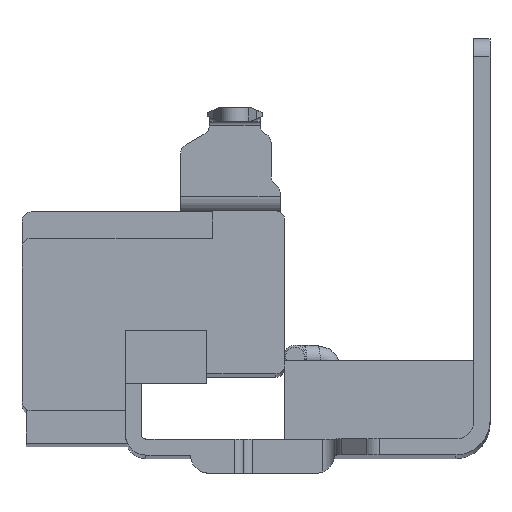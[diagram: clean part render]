
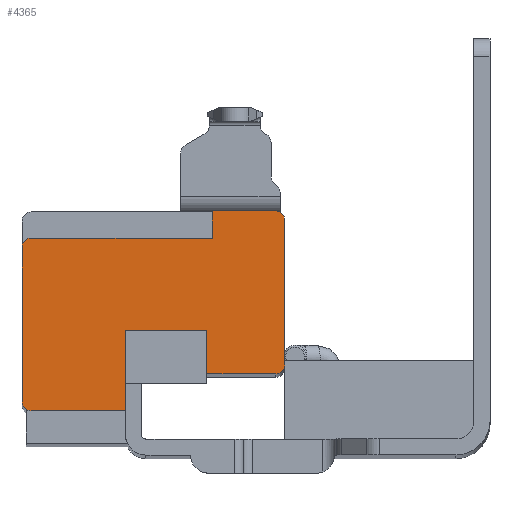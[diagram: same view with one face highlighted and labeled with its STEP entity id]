
A CAD part, top view. The second image highlights one B-rep face of the part: STEP entity #4365.
In plain terms, the highlighted planar face has unit normal (0, 0, 1).
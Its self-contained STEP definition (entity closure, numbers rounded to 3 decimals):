
#14 = EDGE_CURVE ( 'NONE', #10034, #2346, #4924, .T. ) ;
#186 = DIRECTION ( 'NONE',  ( 1., 0., 0. ) ) ;
#220 = DIRECTION ( 'NONE',  ( 0., 0., -1. ) ) ;
#350 = EDGE_CURVE ( 'NONE', #6842, #2805, #7720, .T. ) ;
#486 = LINE ( 'NONE', #9860, #2567 ) ;
#488 = ORIENTED_EDGE ( 'NONE', *, *, #7709, .F. ) ;
#647 = CARTESIAN_POINT ( 'NONE',  ( -42.85, 3., -18.7 ) ) ;
#724 = CARTESIAN_POINT ( 'NONE',  ( -71.88, -17.1, -18.7 ) ) ;
#897 = DIRECTION ( 'NONE',  ( 1., 0., 0. ) ) ;
#1115 = VECTOR ( 'NONE', #897, 1000. ) ;
#1179 = VECTOR ( 'NONE', #186, 1000. ) ;
#1335 = DIRECTION ( 'NONE',  ( 0., 0., -1. ) ) ;
#1358 = VECTOR ( 'NONE', #4287, 1000. ) ;
#1385 = VECTOR ( 'NONE', #2173, 1000. ) ;
#1423 = CARTESIAN_POINT ( 'NONE',  ( -50.85, 4., -18.7 ) ) ;
#1461 = AXIS2_PLACEMENT_3D ( 'NONE', #3054, #8645, #3874 ) ;
#1503 = CARTESIAN_POINT ( 'NONE',  ( -43.85, -14., -18.7 ) ) ;
#1688 = LINE ( 'NONE', #2409, #5893 ) ;
#1832 = CARTESIAN_POINT ( 'NONE',  ( -42.85, -13., -18.7 ) ) ;
#2051 = CARTESIAN_POINT ( 'NONE',  ( -70.88, -17.1, -18.7 ) ) ;
#2148 = ORIENTED_EDGE ( 'NONE', *, *, #9475, .F. ) ;
#2173 = DIRECTION ( 'NONE',  ( 0., -1., 0. ) ) ;
#2226 = ORIENTED_EDGE ( 'NONE', *, *, #5056, .F. ) ;
#2346 = VERTEX_POINT ( 'NONE', #6727 ) ;
#2409 = CARTESIAN_POINT ( 'NONE',  ( -60.45, 0., -18.7 ) ) ;
#2456 = LINE ( 'NONE', #5408, #6196 ) ;
#2567 = VECTOR ( 'NONE', #6620, 1000. ) ;
#2753 = EDGE_CURVE ( 'NONE', #7962, #7452, #2456, .T. ) ;
#2775 = VECTOR ( 'NONE', #3595, 1000. ) ;
#2805 = VERTEX_POINT ( 'NONE', #724 ) ;
#2812 = DIRECTION ( 'NONE',  ( -1., 0., 0. ) ) ;
#2925 = CARTESIAN_POINT ( 'NONE',  ( -40.3, 0., -18.7 ) ) ;
#2970 = EDGE_CURVE ( 'NONE', #3219, #3286, #486, .T. ) ;
#3054 = CARTESIAN_POINT ( 'NONE',  ( -43.85, -13., -18.7 ) ) ;
#3068 = CIRCLE ( 'NONE', #3589, 0.97 ) ;
#3084 = DIRECTION ( 'NONE',  ( 0., 1., 0. ) ) ;
#3163 = EDGE_CURVE ( 'NONE', #5881, #7007, #9809, .T. ) ;
#3182 = LINE ( 'NONE', #6426, #1115 ) ;
#3219 = VERTEX_POINT ( 'NONE', #647 ) ;
#3286 = VERTEX_POINT ( 'NONE', #1832 ) ;
#3336 = VERTEX_POINT ( 'NONE', #5039 ) ;
#3356 = ORIENTED_EDGE ( 'NONE', *, *, #350, .T. ) ;
#3480 = CARTESIAN_POINT ( 'NONE',  ( -51.45, -14., -18.7 ) ) ;
#3589 = AXIS2_PLACEMENT_3D ( 'NONE', #6064, #1335, #6852 ) ;
#3595 = DIRECTION ( 'NONE',  ( 1., 0., 0. ) ) ;
#3652 = EDGE_CURVE ( 'NONE', #2346, #3219, #6300, .T. ) ;
#3764 = EDGE_LOOP ( 'NONE', ( #9453, #2226, #8530, #7386, #9296, #4558, #5677, #2148, #3356, #9120, #9590, #8756, #8850, #488 ) ) ;
#3791 = EDGE_CURVE ( 'NONE', #5881, #10034, #5580, .T. ) ;
#3874 = DIRECTION ( 'NONE',  ( -1., 0., 0. ) ) ;
#4287 = DIRECTION ( 'NONE',  ( 0., 1., 0. ) ) ;
#4365 = ADVANCED_FACE ( 'NONE', ( #8430 ), #6910, .T. ) ;
#4536 = DIRECTION ( 'NONE',  ( 0., 0., 1. ) ) ;
#4539 = DIRECTION ( 'NONE',  ( -1., 0., 0. ) ) ;
#4558 = ORIENTED_EDGE ( 'NONE', *, *, #3791, .F. ) ;
#4690 = CIRCLE ( 'NONE', #7518, 1. ) ;
#4924 = LINE ( 'NONE', #5179, #2775 ) ;
#4935 = EDGE_CURVE ( 'NONE', #9417, #2805, #4690, .T. ) ;
#4976 = CARTESIAN_POINT ( 'NONE',  ( -43.85, 3., -18.7 ) ) ;
#5039 = CARTESIAN_POINT ( 'NONE',  ( -51.45, -9.185, -18.7 ) ) ;
#5056 = EDGE_CURVE ( 'NONE', #3286, #7962, #6053, .T. ) ;
#5179 = CARTESIAN_POINT ( 'NONE',  ( -48.65, 4., -18.7 ) ) ;
#5205 = CARTESIAN_POINT ( 'NONE',  ( -70.88, -18.1, -18.7 ) ) ;
#5350 = CARTESIAN_POINT ( 'NONE',  ( -71.88, 0., -18.7 ) ) ;
#5408 = CARTESIAN_POINT ( 'NONE',  ( -40.3, -14., -18.7 ) ) ;
#5498 = AXIS2_PLACEMENT_3D ( 'NONE', #4976, #220, #5778 ) ;
#5580 = LINE ( 'NONE', #9874, #1358 ) ;
#5677 = ORIENTED_EDGE ( 'NONE', *, *, #3163, .T. ) ;
#5700 = CARTESIAN_POINT ( 'NONE',  ( -60.45, -9.185, -18.7 ) ) ;
#5778 = DIRECTION ( 'NONE',  ( -1., 0., 0. ) ) ;
#5825 = VERTEX_POINT ( 'NONE', #5700 ) ;
#5881 = VERTEX_POINT ( 'NONE', #7407 ) ;
#5893 = VECTOR ( 'NONE', #6656, 1000. ) ;
#6053 = CIRCLE ( 'NONE', #1461, 1. ) ;
#6064 = CARTESIAN_POINT ( 'NONE',  ( -70.91, 0.03, -18.7 ) ) ;
#6196 = VECTOR ( 'NONE', #6200, 1000. ) ;
#6200 = DIRECTION ( 'NONE',  ( -1., 0., 0. ) ) ;
#6300 = CIRCLE ( 'NONE', #5498, 1. ) ;
#6357 = VERTEX_POINT ( 'NONE', #10270 ) ;
#6426 = CARTESIAN_POINT ( 'NONE',  ( -58.68, -9.185, -18.7 ) ) ;
#6620 = DIRECTION ( 'NONE',  ( 0., -1., 0. ) ) ;
#6656 = DIRECTION ( 'NONE',  ( 0., -1., 0. ) ) ;
#6727 = CARTESIAN_POINT ( 'NONE',  ( -43.85, 4., -18.7 ) ) ;
#6842 = VERTEX_POINT ( 'NONE', #7415 ) ;
#6852 = DIRECTION ( 'NONE',  ( -1., 0., 0. ) ) ;
#6910 = PLANE ( 'NONE',  #8973 ) ;
#6914 = CARTESIAN_POINT ( 'NONE',  ( -41.05, 1., -18.7 ) ) ;
#7007 = VERTEX_POINT ( 'NONE', #9251 ) ;
#7386 = ORIENTED_EDGE ( 'NONE', *, *, #3652, .F. ) ;
#7407 = CARTESIAN_POINT ( 'NONE',  ( -50.85, 1., -18.7 ) ) ;
#7415 = CARTESIAN_POINT ( 'NONE',  ( -71.88, 0.03, -18.7 ) ) ;
#7449 = VECTOR ( 'NONE', #4539, 1000. ) ;
#7452 = VERTEX_POINT ( 'NONE', #3480 ) ;
#7511 = LINE ( 'NONE', #9709, #1179 ) ;
#7518 = AXIS2_PLACEMENT_3D ( 'NONE', #2051, #7623, #2812 ) ;
#7623 = DIRECTION ( 'NONE',  ( 0., 0., -1. ) ) ;
#7709 = EDGE_CURVE ( 'NONE', #7452, #3336, #10116, .T. ) ;
#7720 = LINE ( 'NONE', #5350, #1385 ) ;
#7736 = EDGE_CURVE ( 'NONE', #5825, #6357, #1688, .T. ) ;
#7880 = CARTESIAN_POINT ( 'NONE',  ( -51.45, 0., -18.7 ) ) ;
#7962 = VERTEX_POINT ( 'NONE', #1503 ) ;
#8408 = EDGE_CURVE ( 'NONE', #9417, #6357, #7511, .T. ) ;
#8430 = FACE_OUTER_BOUND ( 'NONE', #3764, .T. ) ;
#8530 = ORIENTED_EDGE ( 'NONE', *, *, #2970, .F. ) ;
#8645 = DIRECTION ( 'NONE',  ( 0., 0., -1. ) ) ;
#8756 = ORIENTED_EDGE ( 'NONE', *, *, #7736, .F. ) ;
#8850 = ORIENTED_EDGE ( 'NONE', *, *, #10220, .T. ) ;
#8973 = AXIS2_PLACEMENT_3D ( 'NONE', #2925, #4536, #10120 ) ;
#9120 = ORIENTED_EDGE ( 'NONE', *, *, #4935, .F. ) ;
#9251 = CARTESIAN_POINT ( 'NONE',  ( -70.91, 1., -18.7 ) ) ;
#9296 = ORIENTED_EDGE ( 'NONE', *, *, #14, .F. ) ;
#9417 = VERTEX_POINT ( 'NONE', #5205 ) ;
#9453 = ORIENTED_EDGE ( 'NONE', *, *, #2753, .F. ) ;
#9475 = EDGE_CURVE ( 'NONE', #6842, #7007, #3068, .T. ) ;
#9590 = ORIENTED_EDGE ( 'NONE', *, *, #8408, .T. ) ;
#9709 = CARTESIAN_POINT ( 'NONE',  ( -40.3, -18.1, -18.7 ) ) ;
#9809 = LINE ( 'NONE', #6914, #7449 ) ;
#9860 = CARTESIAN_POINT ( 'NONE',  ( -42.85, 0., -18.7 ) ) ;
#9872 = VECTOR ( 'NONE', #3084, 1000. ) ;
#9874 = CARTESIAN_POINT ( 'NONE',  ( -50.85, 1., -18.7 ) ) ;
#10034 = VERTEX_POINT ( 'NONE', #1423 ) ;
#10116 = LINE ( 'NONE', #7880, #9872 ) ;
#10120 = DIRECTION ( 'NONE',  ( -1., 0., 0. ) ) ;
#10220 = EDGE_CURVE ( 'NONE', #5825, #3336, #3182, .T. ) ;
#10270 = CARTESIAN_POINT ( 'NONE',  ( -60.45, -18.1, -18.7 ) ) ;
